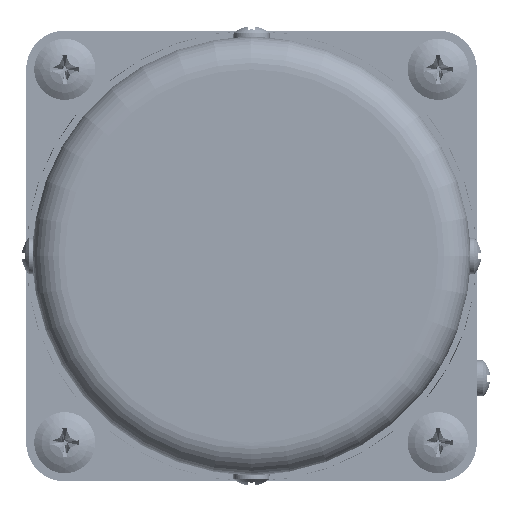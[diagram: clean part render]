
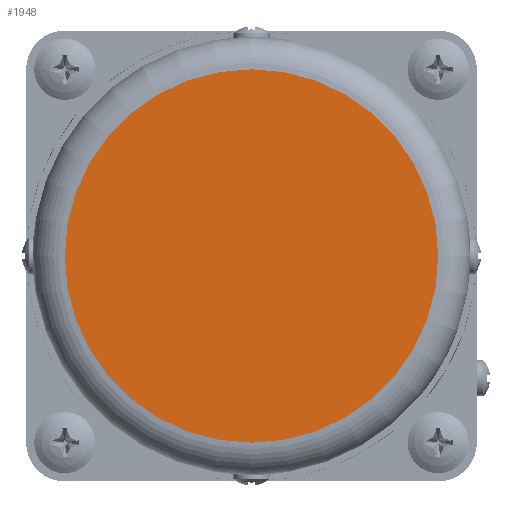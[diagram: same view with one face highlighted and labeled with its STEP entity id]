
A CAD part, left-side view. The second image highlights one B-rep face of the part: STEP entity #1948.
In plain terms, the highlighted planar face has unit normal (-1, 0, 0).
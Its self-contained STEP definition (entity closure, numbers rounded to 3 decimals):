
#923=FACE_OUTER_BOUND('',#2667,.T.);
#1675=PLANE('',#6748);
#1948=ADVANCED_FACE('',(#923),#1675,.T.);
#2667=EDGE_LOOP('',(#3599));
#3599=ORIENTED_EDGE('',*,*,#5569,.T.);
#4877=VERTEX_POINT('',#55208);
#5569=EDGE_CURVE('',#4877,#4877,#6258,.T.);
#6258=CIRCLE('',#6747,29.);
#6747=AXIS2_PLACEMENT_3D('',#55207,#7698,#7699);
#6748=AXIS2_PLACEMENT_3D('',#55209,#7700,#7701);
#7698=DIRECTION('',(-1.,0.,0.));
#7699=DIRECTION('',(0.,0.,-1.));
#7700=DIRECTION('',(-1.,0.,0.));
#7701=DIRECTION('',(0.,0.,-1.));
#55207=CARTESIAN_POINT('',(-123.,0.,0.));
#55208=CARTESIAN_POINT('',(-123.,0.,-29.));
#55209=CARTESIAN_POINT('',(-123.,0.,0.));
